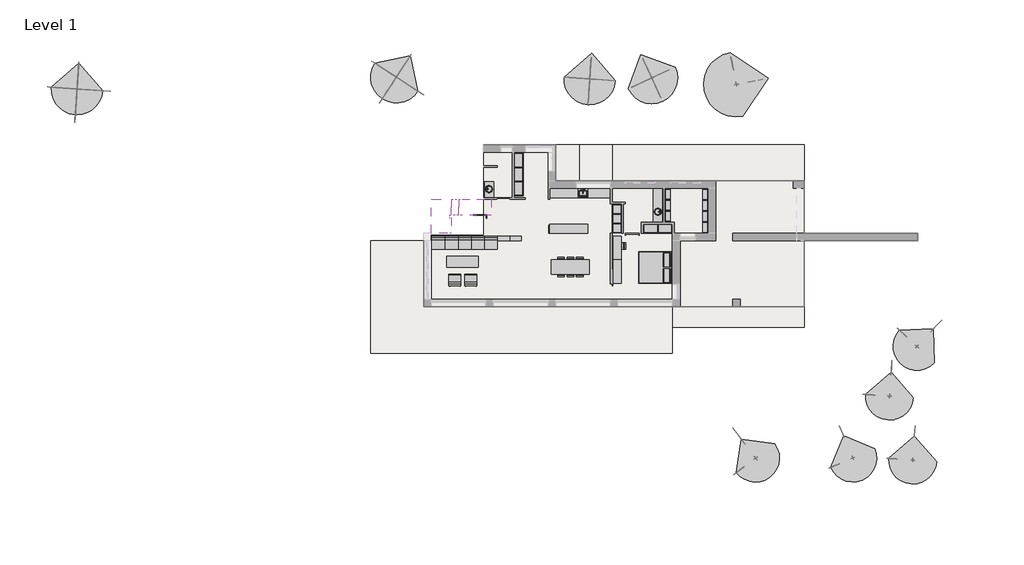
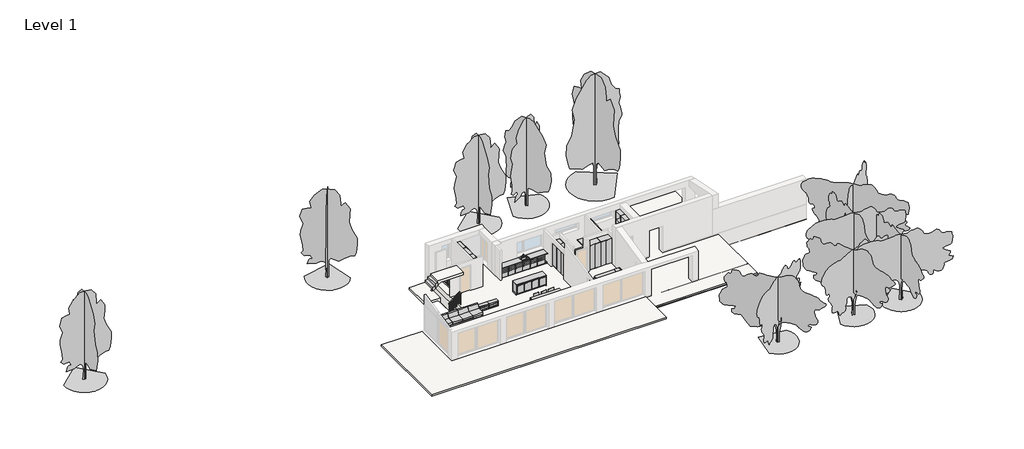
# One storey, part 2 of 2: 52 furniture elements, 10 geographic elements, 6 slabs, 3 flow terminals, 1 proxy, 1 railing, 1 stair flight.
"""IFC4 building model written with IfcOpenShell, lengths in millimetres."""

from ifc_helpers import new_model, si_unit, frame, origin, place, context, project, spatial, polyline, outline, extrude, faceted_brep, triangles, transform, mapped, element, save
from components import sink_kitchen_single_600_x_535mm_f0c6929d, sink_vanity_round_482_x_482mm_621b7b9b, sink_vanity_round_482_x_482mm_d6680c68, furniture_56f83323, furniture_c7f23c1d, furniture_641ccf10, furniture_1500_x_500mm_231fc5f9, furniture_2000_x_700mm_sofa_1e09125b, furniture_2400_x_900mm_03e2ad21, furniture_700_x_300_x_2200mm_207dd1db, furniture_700_x_300_x_2200mm_c5de9306, furniture_750_x_300_x_450mm_957a72fb, base_cabinet_4_drawers_600mm_0668e636, base_cabinet_4_drawers_600mm_bfcd0b6d, bed_box_2000_x_2100mm_5f007bae, couch_straight_module_couch_straight_module_fcc397ea, counter_top_counter_top_cbd42a63, counter_top_w_sink_counter_top_w_sink_5c8073ae, plinth_164mm_2a3f33c6, plinth_164mm_81055ff0, tall_cabinet_double_door_900mm_d8c8d432, tall_cabinet_single_door_600mm_1bc0e967, tall_cabinet_single_door_600mm_d6f7602f, vanity_counter_top_w_round_sink_hole_600mm_depth_7d531bef, vanity_counter_top_w_round_sink_hole_600mm_depth_ceb9e691, rpc_tree_deciduous_comman_apple_6_0_meters_a7a636f8, rpc_tree_deciduous_red_ash_7_6_meters_16c8020d, rpc_tree_deciduous_red_ash_9_6_meters_2_bacbc33b, railing_900mm_round_profiles_c0c307c5

model = new_model("IFC4")

# Units and contexts
model_context = context("Model", 3, world=origin())
ifc_project = project(units=[si_unit("LENGTHUNIT", "METRE", prefix="MILLI")], contexts=[model_context])

# Site, building, storey
site = spatial("IfcSite", under=ifc_project)
building = spatial("IfcBuilding", under=site)
storey = spatial("IfcBuildingStorey", under=building, Name="Level 1", Elevation=0.0)

# Proxy
placement = place(None, origin())
element("IfcBuildingElementProxy", 1, Name="Building Element Proxy", at=placement, inside=storey, context=model_context, shape_type="Tessellation", body=[
    triangles([(7800.0000595, 9960.0001923, -1300.1595932), (7800.0000595, 9960.0001923, -581.8375231), (8428.9581802, 9960.0001923, -1300.1595932), (8428.9581802, 9960.0001923, -500.0000038), (12360.0002106, 9960.0001923, -1300.1595932), (12360.0002106, 9960.0001923, -210.0000089), (12360.0002106, 7679.999826, -1300.1595932), (12360.0002106, 7679.999826, -229.7587047), (12986.7293976, 7679.999826, -1300.1595932), (12986.7293976, 7679.999826, -199.1943094), (15938.3887665, 7679.999826, -1300.1595932), (15938.3887665, 7679.999826, -109.0047382), (18788.9891876, 7679.999826, -1300.1595932), (18788.9891876, 7679.999826, -110.9825699), (20187.7979919, 7679.999826, -1300.1595932), (20187.7979919, 7679.999826, -100.0000008), (22628.3373962, 7679.999826, -1300.1595932), (22628.3373962, 7679.999826, -100.0000008), (22988.0666016, 7679.999826, -1300.1595932), (22988.0666016, 7679.999826, -100.0000008), (24740.727063, 7679.999826, -1300.1595932), (24740.727063, 7679.999826, -100.0000008), (28197.1858521, 7679.999826, -1300.1595932), (28197.1858521, 7679.999826, -100.0000008), (28199.9996338, 7679.999826, -1300.1595932), (28199.9996338, 7679.999826, -100.0000008), (28199.9996338, 7678.500499, -1300.1595932), (28199.9996338, 7678.500499, -100.0000008), (28199.9996338, 4319.9999748, -1300.1595932), (28199.9996338, 4319.9999748, -100.0000008), (29690.7714294, 4319.9999748, -1300.1595932), (29690.7714294, 4319.9999748, -100.0000008), (30279.9424438, 4319.9999748, -1300.1595932), (30279.9424438, 4319.9999748, -100.0000008), (30908.9993958, 4319.9999748, -1300.1595932), (30908.9993958, 4319.9999748, -31.0460633), (31416.6009705, 4319.9999748, -1300.1595932), (31416.6009705, 4319.9999748, 0.0), (35399.9996887, 4319.9999748, -1300.1595932), (35399.9996887, 4319.9999748, 122.2298394), (35399.9996887, 3839.999913, -1300.1595932), (35399.9996887, 3839.999913, 121.0508688), (31455.0242065, 3839.999913, -1300.1595932), (31455.0242065, 3839.999913, 0.0), (31153.3635498, 3839.999913, -1300.1595932), (31153.3635498, 3839.999913, -18.4501842), (30409.3973328, 3839.999913, -1300.1595932), (30409.3973328, 3839.999913, -100.0000008), (29712.602655, 3839.999913, -1300.1595932), (29712.602655, 3839.999913, -100.0000008), (28199.9996338, 3839.999913, -1300.1595932), (28199.9996338, 3839.999913, -100.0000008), (28199.9996338, 2757.5497055, -1300.1595932), (28199.9996338, 2757.5497055, -100.0000008), (28199.9996338, -360.00001, -1300.1595932), (28199.9996338, -360.00001, -100.0000008), (23853.7207397, -360.00001, -1300.1595932), (23853.7207397, -360.00001, -100.0000008), (22511.993335, -360.00001, -1300.1595932), (22511.993335, -360.00001, -100.0000008), (21752.8164185, -360.00001, -1300.1595932), (21752.8164185, -360.00001, -100.0000008), (16504.800705, -360.00001, -1300.1595932), (16504.800705, -360.00001, -141.2041627), (15862.1806274, -360.00001, -1300.1595932), (15862.1806274, -360.00001, -140.758296), (15196.7770569, -360.00001, -1300.1595932), (15196.7770569, -360.00001, -161.0900401), (13880.4667053, -360.00001, -1300.1595932), (13880.4667053, -360.00001, -225.2839233), (13373.8755341, -360.00001, -1300.1595932), (13373.8755341, -360.00001, -233.3955103), (12470.4004486, -360.00001, -1300.1595932), (12470.4004486, -360.00001, -249.2727207), (11393.3638641, -360.00001, -1300.1595932), (11393.3638641, -360.00001, -270.7964614), (9179.1106476, -360.00001, -1300.1595932), (9179.1106476, -360.00001, -319.6154838), (3959.9998558, -360.00001, -1300.1595932), (3959.9998558, -360.00001, -445.0650939), (3959.9998558, 1473.4966873, -1300.1595932), (3959.9998558, 1473.4966873, -452.5169646), (3959.9998558, 3551.736985, -1300.1595932), (3959.9998558, 3551.736985, -472.7297934), (3959.9998558, 3839.999913, -1300.1595932), (3959.9998558, 3839.999913, -476.6637102)], [[1, 4, 2], [1, 3, 4], [3, 6, 4], [3, 5, 6], [5, 8, 6], [5, 7, 8], [7, 10, 8], [7, 9, 10], [9, 12, 10], [9, 11, 12], [11, 14, 12], [11, 13, 14], [13, 16, 14], [13, 15, 16], [15, 18, 16], [15, 17, 18], [17, 20, 18], [17, 19, 20], [19, 22, 20], [19, 21, 22], [21, 24, 22], [21, 23, 24], [23, 26, 24], [23, 25, 26], [25, 28, 26], [25, 27, 28], [27, 30, 28], [27, 29, 30], [29, 32, 30], [29, 31, 32], [31, 34, 32], [31, 33, 34], [33, 36, 34], [33, 35, 36], [35, 38, 36], [35, 37, 38], [37, 40, 38], [37, 39, 40], [39, 42, 40], [39, 41, 42], [41, 44, 42], [41, 43, 44], [43, 46, 44], [43, 45, 46], [45, 48, 46], [45, 47, 48], [47, 50, 48], [47, 49, 50], [49, 52, 50], [49, 51, 52], [51, 54, 52], [51, 53, 54], [53, 56, 54], [53, 55, 56], [55, 58, 56], [55, 57, 58], [57, 60, 58], [57, 59, 60], [59, 62, 60], [59, 61, 62], [61, 64, 62], [61, 63, 64], [63, 66, 64], [63, 65, 66], [65, 68, 66], [65, 67, 68], [67, 70, 68], [67, 69, 70], [69, 72, 70], [69, 71, 72], [71, 74, 72], [71, 73, 74], [73, 76, 74], [73, 75, 76], [75, 78, 76], [75, 77, 78], [77, 80, 78], [77, 79, 80], [79, 82, 80], [79, 81, 82], [81, 84, 82], [81, 83, 84], [83, 86, 84], [83, 85, 86]], closed=False),
    triangles([(3959.9998558, 3839.999913, -1300.1595932), (3959.9998558, 3839.999913, -476.6637102), (3959.9998558, 3551.736985, -1300.1595932), (3959.9998558, 3551.736985, -472.7297934), (3959.9998558, 1473.4966873, -1300.1595932), (3959.9998558, 1473.4966873, -452.5169646), (3959.9998558, -360.00001, -1300.1595932), (3959.9998558, -360.00001, -445.0650939), (9179.1106476, -360.00001, -1300.1595932), (9179.1106476, -360.00001, -319.6154838), (11393.3638641, -360.00001, -1300.1595932), (11393.3638641, -360.00001, -270.7964614), (12470.4004486, -360.00001, -1300.1595932), (12470.4004486, -360.00001, -249.2727207), (13373.8755341, -360.00001, -1300.1595932), (13373.8755341, -360.00001, -233.3955103), (13880.4667053, -360.00001, -1300.1595932), (13880.4667053, -360.00001, -225.2839233), (15196.7770569, -360.00001, -1300.1595932), (15196.7770569, -360.00001, -161.0900401), (15862.1806274, -360.00001, -1300.1595932), (15862.1806274, -360.00001, -140.758296), (16504.800705, -360.00001, -1300.1595932), (16504.800705, -360.00001, -141.2041627), (21752.8164185, -360.00001, -1300.1595932), (21752.8164185, -360.00001, -100.0000008), (22511.993335, -360.00001, -1300.1595932), (22511.993335, -360.00001, -100.0000008), (23853.7207397, -360.00001, -1300.1595932), (23853.7207397, -360.00001, -100.0000008), (28199.9996338, -360.00001, -1300.1595932), (28199.9996338, -360.00001, -100.0000008), (28199.9996338, 2757.5497055, -1300.1595932), (28199.9996338, 2757.5497055, -100.0000008), (28199.9996338, 3839.999913, -1300.1595932), (28199.9996338, 3839.999913, -100.0000008), (29712.602655, 3839.999913, -1300.1595932), (29712.602655, 3839.999913, -100.0000008), (30409.3973328, 3839.999913, -1300.1595932), (30409.3973328, 3839.999913, -100.0000008), (31153.3635498, 3839.999913, -1300.1595932), (31153.3635498, 3839.999913, -18.4501842), (31455.0242065, 3839.999913, -1300.1595932), (31455.0242065, 3839.999913, 0.0), (35399.9996887, 3839.999913, -1300.1595932), (35399.9996887, 3839.999913, 121.0508688), (35399.9996887, 4319.9999748, -1300.1595932), (35399.9996887, 4319.9999748, 122.2298394), (31416.6009705, 4319.9999748, -1300.1595932), (31416.6009705, 4319.9999748, 0.0), (30908.9993958, 4319.9999748, -1300.1595932), (30908.9993958, 4319.9999748, -31.0460633), (30279.9424438, 4319.9999748, -1300.1595932), (30279.9424438, 4319.9999748, -100.0000008), (29690.7714294, 4319.9999748, -1300.1595932), (29690.7714294, 4319.9999748, -100.0000008), (28199.9996338, 4319.9999748, -1300.1595932), (28199.9996338, 4319.9999748, -100.0000008), (28199.9996338, 7678.500499, -1300.1595932), (28199.9996338, 7678.500499, -100.0000008), (28199.9996338, 7679.999826, -1300.1595932), (28199.9996338, 7679.999826, -100.0000008), (28197.1858521, 7679.999826, -1300.1595932), (28197.1858521, 7679.999826, -100.0000008), (24740.727063, 7679.999826, -1300.1595932), (24740.727063, 7679.999826, -100.0000008), (22988.0666016, 7679.999826, -1300.1595932), (22988.0666016, 7679.999826, -100.0000008), (22628.3373962, 7679.999826, -1300.1595932), (22628.3373962, 7679.999826, -100.0000008), (20187.7979919, 7679.999826, -1300.1595932), (20187.7979919, 7679.999826, -100.0000008), (18788.9891876, 7679.999826, -1300.1595932), (18788.9891876, 7679.999826, -110.9825699), (15938.3887665, 7679.999826, -1300.1595932), (15938.3887665, 7679.999826, -109.0047382), (12986.7293976, 7679.999826, -1300.1595932), (12986.7293976, 7679.999826, -199.1943094), (12360.0002106, 7679.999826, -1300.1595932), (12360.0002106, 7679.999826, -229.7587047), (12360.0002106, 9960.0001923, -1300.1595932), (12360.0002106, 9960.0001923, -210.0000089)], [[1, 4, 2], [1, 3, 4], [3, 6, 4], [3, 5, 6], [5, 8, 6], [5, 7, 8], [7, 10, 8], [7, 9, 10], [9, 12, 10], [9, 11, 12], [11, 14, 12], [11, 13, 14], [13, 16, 14], [13, 15, 16], [15, 18, 16], [15, 17, 18], [17, 20, 18], [17, 19, 20], [19, 22, 20], [19, 21, 22], [21, 24, 22], [21, 23, 24], [23, 26, 24], [23, 25, 26], [25, 28, 26], [25, 27, 28], [27, 30, 28], [27, 29, 30], [29, 32, 30], [29, 31, 32], [31, 34, 32], [31, 33, 34], [33, 36, 34], [33, 35, 36], [35, 38, 36], [35, 37, 38], [37, 40, 38], [37, 39, 40], [39, 42, 40], [39, 41, 42], [41, 44, 42], [41, 43, 44], [43, 46, 44], [43, 45, 46], [45, 48, 46], [45, 47, 48], [47, 50, 48], [47, 49, 50], [49, 52, 50], [49, 51, 52], [51, 54, 52], [51, 53, 54], [53, 56, 54], [53, 55, 56], [55, 58, 56], [55, 57, 58], [57, 60, 58], [57, 59, 60], [59, 62, 60], [59, 61, 62], [61, 64, 62], [61, 63, 64], [63, 66, 64], [63, 65, 66], [65, 68, 66], [65, 67, 68], [67, 70, 68], [67, 69, 70], [69, 72, 70], [69, 71, 72], [71, 74, 72], [71, 73, 74], [73, 76, 74], [73, 75, 76], [75, 78, 76], [75, 77, 78], [77, 80, 78], [77, 79, 80], [79, 82, 80], [79, 81, 82]], closed=False),
    triangles([(12360.0002106, 9960.0001923, -1300.1595932), (12360.0002106, 9960.0001923, -210.0000089), (8428.9581802, 9960.0001923, -1300.1595932), (8428.9581802, 9960.0001923, -500.0000038), (7800.0000595, 9960.0001923, -1300.1595932), (7800.0000595, 9960.0001923, -581.8375231)], [[1, 4, 2], [1, 3, 4], [3, 6, 4], [3, 5, 6]], closed=False),
    triangles([(12360.0002106, 9960.0001923, -1300.1595932), (7800.0000595, 9960.0001923, -1300.1595932), (7800.0000595, 4200.000032, -1300.1595932), (4439.9999176, 4200.000032, -1300.1595932), (4439.9999176, 3839.999913, -1300.1595932), (3959.9998558, 3839.999913, -1300.1595932), (3959.9998558, -360.00001, -1300.1595932), (28199.9996338, -360.00001, -1300.1595932), (28199.9996338, 3839.999913, -1300.1595932), (35399.9996887, 3839.999913, -1300.1595932), (35399.9996887, 4319.9999748, -1300.1595932), (28199.9996338, 4319.9999748, -1300.1595932), (28199.9996338, 7679.999826, -1300.1595932), (12360.0002106, 7679.999826, -1300.1595932)], [[7, 5, 6], [5, 7, 3], [2, 14, 1], [14, 2, 3], [4, 5, 3], [7, 8, 3], [8, 9, 14], [9, 10, 11], [14, 12, 13], [12, 14, 9], [12, 9, 11], [8, 14, 3]], closed=False),
])

# Flow terminals
sink_kitchen_single_600_x_535mm_shape = sink_kitchen_single_600_x_535mm_f0c6929d(model_context)
element("IfcFlowTerminal", 2, ObjectType="Sink Kitchen-Single : 600 x 535mm", at=placement, inside=storey, context=model_context, shape_type="MappedRepresentation", body=[
    mapped(sink_kitchen_single_600_x_535mm_shape, transform((14084.3107594, 6884.4545989, 0.0), x_axis=(1.0, 0.0, 0.0), y_axis=(0.0, 1.0, 0.0), z_axis=(0.0, 0.0, 1.0))),
])
sink_vanity_round_482_x_482mm_shape = sink_vanity_round_482_x_482mm_621b7b9b(model_context)
element("IfcFlowTerminal", 3, ObjectType="Sink Vanity - Round : 482 x 482mm", at=placement, inside=storey, context=model_context, shape_type="MappedRepresentation", body=[
    mapped(sink_vanity_round_482_x_482mm_shape, transform((8198.5909789, 7043.3482594, 0.0), x_axis=(0.0, 1.0, 0.0), y_axis=(-1.0, 0.0, 0.0), z_axis=(0.0, 0.0, 1.0))),
])
sink_vanity_round_482_x_482mm_2_shape = sink_vanity_round_482_x_482mm_d6680c68(model_context)
element("IfcFlowTerminal", 4, ObjectType="Sink Vanity - Round : 482 x 482mm", at=placement, inside=storey, context=model_context, shape_type="MappedRepresentation", body=[
    mapped(sink_vanity_round_482_x_482mm_2_shape, transform((18782.3590211, 5603.3482594, 0.0), x_axis=(0.0, 1.0, 0.0), y_axis=(-1.0, 0.0, 0.0), z_axis=(0.0, 0.0, 1.0))),
])

# Furniture
furniture_shape = furniture_56f83323(model_context)
element("IfcFurniture", 5, ObjectType="Chair - Allround : Dining Chair Trendy", at=placement, inside=storey, context=model_context, shape_type="MappedRepresentation", body=[
    mapped(furniture_shape, transform((13300.0, 2500.0, 0.0), x_axis=(1.0, 0.0, 0.0), y_axis=(0.0, 1.0, 0.0), z_axis=(0.0, 0.0, 1.0))),
])
element("IfcFurniture", 6, ObjectType="Chair - Allround : Dining Chair Trendy", at=placement, inside=storey, context=model_context, shape_type="MappedRepresentation", body=[
    mapped(furniture_shape, transform((12700.0, 2500.0, 0.0), x_axis=(1.0, 0.0, 0.0), y_axis=(0.0, 1.0, 0.0), z_axis=(0.0, 0.0, 1.0))),
])
element("IfcFurniture", 7, ObjectType="Chair - Allround : Dining Chair Trendy", at=placement, inside=storey, context=model_context, shape_type="MappedRepresentation", body=[
    mapped(furniture_shape, transform((13900.0, 1860.0, 0.0), x_axis=(-1.0, 0.0, 0.0), y_axis=(0.0, -1.0, 0.0), z_axis=(0.0, 0.0, 1.0))),
])
element("IfcFurniture", 8, ObjectType="Chair - Allround : Dining Chair Trendy", at=placement, inside=storey, context=model_context, shape_type="MappedRepresentation", body=[
    mapped(furniture_shape, transform((16520.0, 3510.0, 0.0), x_axis=(0.0, -1.0, 0.0), y_axis=(1.0, 0.0, 0.0), z_axis=(0.0, 0.0, 1.0))),
])
furniture_2_shape = furniture_c7f23c1d(model_context)
element("IfcFurniture", 9, ObjectType="Armchair - Barcelona : Armchair Barcelona", at=placement, inside=storey, context=model_context, shape_type="MappedRepresentation", body=[
    mapped(furniture_2_shape, transform((6959.0, 930.0, 0.0), x_axis=(-1.0000000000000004, 0.0, 0.0), y_axis=(0.0, -1.0000000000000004, 0.0), z_axis=(0.0, 0.0, 1.0))),
])
element("IfcFurniture", 10, ObjectType="Armchair - Barcelona : Armchair Barcelona", at=placement, inside=storey, context=model_context, shape_type="MappedRepresentation", body=[
    mapped(furniture_2_shape, transform((5947.0, 930.0, 0.0), x_axis=(-1.0, 0.0, 0.0), y_axis=(0.0, -1.0, 0.0), z_axis=(0.0, 0.0, 1.0))),
])
furniture_3_shape = furniture_641ccf10(model_context)
element("IfcFurniture", 11, ObjectType="Chair - Allround : Dining Chair Trendy", at=placement, inside=storey, context=model_context, shape_type="MappedRepresentation", body=[
    mapped(furniture_3_shape, transform((13900.0, 2500.0, 0.0), x_axis=(-1.0, 0.0, 0.0), y_axis=(0.0, -1.0, 0.0), z_axis=(0.0, 0.0, 1.0))),
])
element("IfcFurniture", 12, ObjectType="Chair - Allround : Dining Chair Trendy", at=placement, inside=storey, context=model_context, shape_type="MappedRepresentation", body=[
    mapped(furniture_3_shape, transform((13300.0, 1860.0, 0.0), x_axis=(1.0, 0.0, 0.0), y_axis=(0.0, 1.0, 0.0), z_axis=(0.0, 0.0, 1.0))),
])
element("IfcFurniture", 13, ObjectType="Chair - Allround : Dining Chair Trendy", at=placement, inside=storey, context=model_context, shape_type="MappedRepresentation", body=[
    mapped(furniture_3_shape, transform((12700.0, 1860.0, 0.0), x_axis=(1.0, 0.0, 0.0), y_axis=(0.0, 1.0, 0.0), z_axis=(0.0, 0.0, 1.0))),
])
furniture_1500_x_500mm_shape = furniture_1500_x_500mm_231fc5f9(model_context)
element("IfcFurniture", 14, ObjectType="Table - Allround : 1500 x 500mm", at=placement, inside=storey, context=model_context, shape_type="MappedRepresentation", body=[
    mapped(furniture_1500_x_500mm_shape, transform((16275.0, 3400.0, 0.0), x_axis=(0.0, 1.0, 0.0), y_axis=(-1.0, 0.0, 0.0), z_axis=(0.0, 0.0, 1.0))),
])
element("IfcFurniture", 15, ObjectType="Table - Allround : 1500 x 500mm", at=placement, inside=storey, context=model_context, shape_type="MappedRepresentation", body=[
    mapped(furniture_1500_x_500mm_shape, transform((16275.0, 1900.0, 0.0), x_axis=(0.0, 1.0, 0.0), y_axis=(-1.0, 0.0, 0.0), z_axis=(0.0, 0.0, 1.0))),
])
furniture_2000_x_700mm_sofa_shape = furniture_2000_x_700mm_sofa_1e09125b(model_context)
element("IfcFurniture", 16, ObjectType="Table - Allround : 2000 x 700mm Sofa", at=placement, inside=storey, context=model_context, shape_type="MappedRepresentation", body=[
    mapped(furniture_2000_x_700mm_sofa_shape, transform((6440.0, 2520.0, 0.0), x_axis=(1.0, 0.0, 0.0), y_axis=(0.0, 1.0, 0.0), z_axis=(0.0, 0.0, 1.0))),
])
furniture_2400_x_900mm_shape = furniture_2400_x_900mm_03e2ad21(model_context)
element("IfcFurniture", 17, ObjectType="Table - Allround : 2400 x 900mm", at=placement, inside=storey, context=model_context, shape_type="MappedRepresentation", body=[
    mapped(furniture_2400_x_900mm_shape, transform((13300.0, 2180.0, 0.0), x_axis=(1.0, 0.0, 0.0), y_axis=(0.0, 1.0, 0.0), z_axis=(0.0, 0.0, 1.0))),
])
furniture_700_x_300_x_2200mm_shape = furniture_700_x_300_x_2200mm_207dd1db(model_context)
element("IfcFurniture", 18, ObjectType="Shelving (Floor) - Allround : 700 x 300 x 2200mm", at=placement, inside=storey, context=model_context, shape_type="MappedRepresentation", body=[
    mapped(furniture_700_x_300_x_2200mm_shape, transform((19824.8, 5420.0, 0.0), x_axis=(0.0, -1.0000000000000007, 0.0), y_axis=(1.0000000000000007, 0.0, 0.0), z_axis=(0.0, 0.0, 1.0))),
])
element("IfcFurniture", 19, ObjectType="Shelving (Floor) - Allround : 700 x 300 x 2200mm", at=placement, inside=storey, context=model_context, shape_type="MappedRepresentation", body=[
    mapped(furniture_700_x_300_x_2200mm_shape, transform((19824.8, 6120.0, 0.0), x_axis=(0.0, -1.0000000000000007, 0.0), y_axis=(1.0000000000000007, 0.0, 0.0), z_axis=(0.0, 0.0, 1.0))),
])
element("IfcFurniture", 20, ObjectType="Shelving (Floor) - Allround : 700 x 300 x 2200mm", at=placement, inside=storey, context=model_context, shape_type="MappedRepresentation", body=[
    mapped(furniture_700_x_300_x_2200mm_shape, transform((19824.8, 6820.0, 0.0), x_axis=(0.0, -1.0000000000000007, 0.0), y_axis=(1.0000000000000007, 0.0, 0.0), z_axis=(0.0, 0.0, 1.0))),
])
furniture_700_x_300_x_2200mm_2_shape = furniture_700_x_300_x_2200mm_c5de9306(model_context)
element("IfcFurniture", 21, ObjectType="Shelving (Floor) - Allround : 700 x 300 x 2200mm", at=placement, inside=storey, context=model_context, shape_type="MappedRepresentation", body=[
    mapped(furniture_700_x_300_x_2200mm_2_shape, transform((21575.2, 5400.0, 0.0), x_axis=(0.0, -1.0000000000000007, 0.0), y_axis=(1.0000000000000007, 0.0, 0.0), z_axis=(0.0, 0.0, 1.0))),
])
element("IfcFurniture", 22, ObjectType="Shelving (Floor) - Allround : 700 x 300 x 2200mm", at=placement, inside=storey, context=model_context, shape_type="MappedRepresentation", body=[
    mapped(furniture_700_x_300_x_2200mm_2_shape, transform((21575.2, 6100.0, 0.0), x_axis=(0.0, -1.0000000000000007, 0.0), y_axis=(1.0000000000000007, 0.0, 0.0), z_axis=(0.0, 0.0, 1.0))),
])
element("IfcFurniture", 23, ObjectType="Shelving (Floor) - Allround : 700 x 300 x 2200mm", at=placement, inside=storey, context=model_context, shape_type="MappedRepresentation", body=[
    mapped(furniture_700_x_300_x_2200mm_2_shape, transform((21575.2, 6800.0, 0.0), x_axis=(0.0, -1.0000000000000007, 0.0), y_axis=(1.0000000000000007, 0.0, 0.0), z_axis=(0.0, 0.0, 1.0))),
])
element("IfcFurniture", 24, ObjectType="Shelving (Floor) - Allround : 700 x 300 x 2200mm", at=placement, inside=storey, context=model_context, shape_type="MappedRepresentation", body=[
    mapped(furniture_700_x_300_x_2200mm_2_shape, transform((21575.2, 4700.0, 0.0), x_axis=(0.0, -1.0000000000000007, 0.0), y_axis=(1.0000000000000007, 0.0, 0.0), z_axis=(0.0, 0.0, 1.0))),
])
furniture_750_x_300_x_450mm_shape = furniture_750_x_300_x_450mm_957a72fb(model_context)
element("IfcFurniture", 25, ObjectType="Shelving (Floor) - Allround : 750 x 300 x 450mm", at=placement, inside=storey, context=model_context, shape_type="MappedRepresentation", body=[
    mapped(furniture_750_x_300_x_450mm_shape, transform((9065.0, 4304.8, 0.0), x_axis=(1.0000000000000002, 0.0, 0.0), y_axis=(0.0, 1.0000000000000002, 0.0), z_axis=(0.0, 0.0, 1.0))),
])
element("IfcFurniture", 26, ObjectType="Shelving (Floor) - Allround : 750 x 300 x 450mm", at=placement, inside=storey, context=model_context, shape_type="MappedRepresentation", body=[
    mapped(furniture_750_x_300_x_450mm_shape, transform((9815.0, 4304.8, 0.0), x_axis=(1.0000000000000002, 0.0, 0.0), y_axis=(0.0, 1.0000000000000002, 0.0), z_axis=(0.0, 0.0, 1.0))),
])
base_cabinet_4_drawers_600mm_shape = base_cabinet_4_drawers_600mm_0668e636(model_context)
element("IfcFurniture", 27, ObjectType="Base Cabinet - 4 Drawers : 600mm", at=placement, inside=storey, context=model_context, shape_type="MappedRepresentation", body=[
    mapped(base_cabinet_4_drawers_600mm_shape, transform((13455.2996736, 7200.9817781, 0.0), x_axis=(1.0, 0.0, 0.0), y_axis=(0.0, 1.0, 0.0), z_axis=(0.0, 0.0, 1.0))),
])
element("IfcFurniture", 28, ObjectType="Base Cabinet - 4 Drawers : 600mm", at=placement, inside=storey, context=model_context, shape_type="MappedRepresentation", body=[
    mapped(base_cabinet_4_drawers_600mm_shape, transform((14655.2996736, 7200.0, 0.0), x_axis=(1.0, 0.0, 0.0), y_axis=(0.0, 1.0, 0.0), z_axis=(0.0, 0.0, 1.0))),
])
element("IfcFurniture", 29, ObjectType="Base Cabinet - 4 Drawers : 600mm", at=placement, inside=storey, context=model_context, shape_type="MappedRepresentation", body=[
    mapped(base_cabinet_4_drawers_600mm_shape, transform((15255.2996736, 7200.0, 0.0), x_axis=(1.0, 0.0, 0.0), y_axis=(0.0, 1.0, 0.0), z_axis=(0.0, 0.0, 1.0))),
])
element("IfcFurniture", 30, ObjectType="Base Cabinet - 4 Drawers : 600mm", at=placement, inside=storey, context=model_context, shape_type="MappedRepresentation", body=[
    mapped(base_cabinet_4_drawers_600mm_shape, transform((12344.7003264, 4320.0, 0.0), x_axis=(-1.0000000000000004, 0.0, 0.0), y_axis=(0.0, -1.0000000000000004, 0.0), z_axis=(0.0, 0.0, 1.0))),
])
element("IfcFurniture", 31, ObjectType="Base Cabinet - 4 Drawers : 600mm", at=placement, inside=storey, context=model_context, shape_type="MappedRepresentation", body=[
    mapped(base_cabinet_4_drawers_600mm_shape, transform((12944.7003264, 4320.0, 0.0), x_axis=(-1.0, 0.0, 0.0), y_axis=(0.0, -1.0, 0.0), z_axis=(0.0, 0.0, 1.0))),
])
element("IfcFurniture", 32, ObjectType="Base Cabinet - 4 Drawers : 600mm", at=placement, inside=storey, context=model_context, shape_type="MappedRepresentation", body=[
    mapped(base_cabinet_4_drawers_600mm_shape, transform((13544.7003264, 4320.0, 0.0), x_axis=(-1.0, 0.0, 0.0), y_axis=(0.0, -1.0, 0.0), z_axis=(0.0, 0.0, 1.0))),
])
element("IfcFurniture", 33, ObjectType="Base Cabinet - 4 Drawers : 600mm", at=placement, inside=storey, context=model_context, shape_type="MappedRepresentation", body=[
    mapped(base_cabinet_4_drawers_600mm_shape, transform((14144.7003264, 4320.0, 0.0), x_axis=(-1.0, 0.0, 0.0), y_axis=(0.0, -1.0, 0.0), z_axis=(0.0, 0.0, 1.0))),
])
element("IfcFurniture", 34, ObjectType="Base Cabinet - 4 Drawers : 600mm", at=placement, inside=storey, context=model_context, shape_type="MappedRepresentation", body=[
    mapped(base_cabinet_4_drawers_600mm_shape, transform((12855.2996736, 7200.9817781, 0.0), x_axis=(1.0, 0.0, 0.0), y_axis=(0.0, 1.0, 0.0), z_axis=(0.0, 0.0, 1.0))),
])
element("IfcFurniture", 35, ObjectType="Base Cabinet - 4 Drawers : 600mm", at=placement, inside=storey, context=model_context, shape_type="MappedRepresentation", body=[
    mapped(base_cabinet_4_drawers_600mm_shape, transform((12255.2996736, 7200.9817781, 0.0), x_axis=(1.0, 0.0, 0.0), y_axis=(0.0, 1.0, 0.0), z_axis=(0.0, 0.0, 1.0))),
])
base_cabinet_4_drawers_600mm_2_shape = base_cabinet_4_drawers_600mm_bfcd0b6d(model_context)
element("IfcFurniture", 36, ObjectType="Base Cabinet - 4 Drawers : 600mm", at=placement, inside=storey, context=model_context, shape_type="MappedRepresentation", body=[
    mapped(base_cabinet_4_drawers_600mm_2_shape, transform((14055.2996736, 7200.0, 0.0), x_axis=(1.0, 0.0, 0.0), y_axis=(0.0, 1.0, 0.0), z_axis=(0.0, 0.0, 1.0))),
])
bed_box_2000_x_2100mm_shape = bed_box_2000_x_2100mm_5f007bae(model_context)
element("IfcFurniture", 37, ObjectType="Bed - Box : 2000 x 2100mm", at=placement, inside=storey, context=model_context, shape_type="MappedRepresentation", body=[
    mapped(bed_box_2000_x_2100mm_shape, transform((18934.4295082, 2489.152459, 0.0), x_axis=(0.0, -1.0000000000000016, 0.0), y_axis=(1.0000000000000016, 0.0, 0.0), z_axis=(0.0, 0.0, 1.0))),
])
couch_straight_module_couch_straight_module_shape = couch_straight_module_couch_straight_module_fcc397ea(model_context)
element("IfcFurniture", 38, ObjectType="Couch - Straight Module : Couch straight module", at=placement, inside=storey, context=model_context, shape_type="MappedRepresentation", body=[
    mapped(couch_straight_module_couch_straight_module_shape, transform((4490.0, 3320.0, 0.0), x_axis=(1.0, 0.0, 0.0), y_axis=(0.0, 1.0, 0.0), z_axis=(0.0, 0.0, 1.0))),
])
element("IfcFurniture", 39, ObjectType="Couch - Straight Module : Couch straight module", at=placement, inside=storey, context=model_context, shape_type="MappedRepresentation", body=[
    mapped(couch_straight_module_couch_straight_module_shape, transform((5320.0, 3320.0, 0.0), x_axis=(1.0, 0.0, 0.0), y_axis=(0.0, 1.0, 0.0), z_axis=(0.0, 0.0, 1.0))),
])
element("IfcFurniture", 40, ObjectType="Couch - Straight Module : Couch straight module", at=placement, inside=storey, context=model_context, shape_type="MappedRepresentation", body=[
    mapped(couch_straight_module_couch_straight_module_shape, transform((6150.0, 3320.0, 0.0), x_axis=(1.0, 0.0, 0.0), y_axis=(0.0, 1.0, 0.0), z_axis=(0.0, 0.0, 1.0))),
])
element("IfcFurniture", 41, ObjectType="Couch - Straight Module : Couch straight module", at=placement, inside=storey, context=model_context, shape_type="MappedRepresentation", body=[
    mapped(couch_straight_module_couch_straight_module_shape, transform((6980.0, 3320.0, 0.0), x_axis=(1.0, 0.0, 0.0), y_axis=(0.0, 1.0, 0.0), z_axis=(0.0, 0.0, 1.0))),
])
element("IfcFurniture", 42, ObjectType="Couch - Straight Module : Couch straight module", at=placement, inside=storey, context=model_context, shape_type="MappedRepresentation", body=[
    mapped(couch_straight_module_couch_straight_module_shape, transform((7810.0, 3320.0, 0.0), x_axis=(1.0, 0.0, 0.0), y_axis=(0.0, 1.0, 0.0), z_axis=(0.0, 0.0, 1.0))),
])
counter_top_counter_top_shape = counter_top_counter_top_cbd42a63(model_context)
element("IfcFurniture", 43, ObjectType="Counter Top : Counter Top", at=placement, inside=storey, context=model_context, shape_type="MappedRepresentation", body=[
    mapped(counter_top_counter_top_shape, transform((13844.7003264, 4320.0, 0.0), x_axis=(-1.0000000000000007, 0.0, 0.0), y_axis=(0.0, -1.0000000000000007, 0.0), z_axis=(0.0, 0.0, 1.0))),
])
counter_top_w_sink_counter_top_w_sink_shape = counter_top_w_sink_counter_top_w_sink_5c8073ae(model_context)
element("IfcFurniture", 44, ObjectType="Counter Top w Sink : Counter Top w Sink", at=placement, inside=storey, context=model_context, shape_type="MappedRepresentation", body=[
    mapped(counter_top_w_sink_counter_top_w_sink_shape, transform((12555.2996736, 7200.0, 0.0), x_axis=(1.0, 0.0, 0.0), y_axis=(0.0, 1.0, 0.0), z_axis=(0.0, 0.0, 1.0))),
])
plinth_164mm_shape = plinth_164mm_2a3f33c6(model_context)
element("IfcFurniture", 45, ObjectType="Plinth : 164mm", at=placement, inside=storey, context=model_context, shape_type="MappedRepresentation", body=[
    mapped(plinth_164mm_shape, transform((13214.7003264, 4320.0, 0.0), x_axis=(-1.0, 0.0, 0.0), y_axis=(0.0, -1.0, 0.0), z_axis=(0.0, 0.0, 1.0))),
])
plinth_164mm_2_shape = plinth_164mm_81055ff0(model_context)
element("IfcFurniture", 46, ObjectType="Plinth : 164mm", at=placement, inside=storey, context=model_context, shape_type="MappedRepresentation", body=[
    mapped(plinth_164mm_2_shape, transform((13845.2996736, 7200.0, 0.0), x_axis=(1.0, 0.0, 0.0), y_axis=(0.0, 1.0, 0.0), z_axis=(0.0, 0.0, 1.0))),
])
tall_cabinet_double_door_900mm_shape = tall_cabinet_double_door_900mm_d8c8d432(model_context)
element("IfcFurniture", 47, ObjectType="Tall Cabinet - Double door : 900mm", at=placement, inside=storey, context=model_context, shape_type="MappedRepresentation", body=[
    mapped(tall_cabinet_double_door_900mm_shape, transform((9720.0, 7130.2996736, 0.0), x_axis=(0.0, 1.0000000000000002, 0.0), y_axis=(-1.0000000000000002, 0.0, 0.0), z_axis=(0.0, 0.0, 1.0))),
])
element("IfcFurniture", 48, ObjectType="Tall Cabinet - Double door : 900mm", at=placement, inside=storey, context=model_context, shape_type="MappedRepresentation", body=[
    mapped(tall_cabinet_double_door_900mm_shape, transform((9720.0, 8930.2996736, 0.0), x_axis=(0.0, 1.0000000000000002, 0.0), y_axis=(-1.0000000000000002, 0.0, 0.0), z_axis=(0.0, 0.0, 1.0))),
])
element("IfcFurniture", 49, ObjectType="Tall Cabinet - Double door : 900mm", at=placement, inside=storey, context=model_context, shape_type="MappedRepresentation", body=[
    mapped(tall_cabinet_double_door_900mm_shape, transform((19275.2996736, 4920.0, 0.0), x_axis=(1.0000000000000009, 0.0, 0.0), y_axis=(0.0, 1.0000000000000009, 0.0), z_axis=(0.0, 0.0, 1.0))),
])
element("IfcFurniture", 50, ObjectType="Tall Cabinet - Double door : 900mm", at=placement, inside=storey, context=model_context, shape_type="MappedRepresentation", body=[
    mapped(tall_cabinet_double_door_900mm_shape, transform((9720.0, 8030.2996736, 0.0), x_axis=(0.0, 1.0, 0.0), y_axis=(-1.0, 0.0, 0.0), z_axis=(0.0, 0.0, 1.0))),
])
element("IfcFurniture", 51, ObjectType="Tall Cabinet - Double door : 900mm", at=placement, inside=storey, context=model_context, shape_type="MappedRepresentation", body=[
    mapped(tall_cabinet_double_door_900mm_shape, transform((18375.2996736, 4920.0, 0.0), x_axis=(1.0000000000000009, 0.0, 0.0), y_axis=(0.0, 1.0000000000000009, 0.0), z_axis=(0.0, 0.0, 1.0))),
])
tall_cabinet_single_door_600mm_shape = tall_cabinet_single_door_600mm_1bc0e967(model_context)
element("IfcFurniture", 52, ObjectType="Tall Cabinet - Single door : 600mm", at=placement, inside=storey, context=model_context, shape_type="MappedRepresentation", body=[
    mapped(tall_cabinet_single_door_600mm_shape, transform((16560.0, 5904.7003264, 0.0), x_axis=(0.0, -1.0, 0.0), y_axis=(1.0, 0.0, 0.0), z_axis=(0.0, 0.0, 1.0))),
])
tall_cabinet_single_door_600mm_2_shape = tall_cabinet_single_door_600mm_d6f7602f(model_context)
element("IfcFurniture", 53, ObjectType="Tall Cabinet - Single door : 600mm", at=placement, inside=storey, context=model_context, shape_type="MappedRepresentation", body=[
    mapped(tall_cabinet_single_door_600mm_2_shape, transform((16560.0, 5215.2996736, 0.0), x_axis=(0.0, 1.0, 0.0), y_axis=(-1.0, 0.0, 0.0), z_axis=(0.0, 0.0, 1.0))),
])
element("IfcFurniture", 54, ObjectType="Tall Cabinet - Single door : 600mm", at=placement, inside=storey, context=model_context, shape_type="MappedRepresentation", body=[
    mapped(tall_cabinet_single_door_600mm_2_shape, transform((16560.0, 4615.2996736, 0.0), x_axis=(0.0, 1.0, 0.0), y_axis=(-1.0, 0.0, 0.0), z_axis=(0.0, 0.0, 1.0))),
])
vanity_counter_top_w_round_sink_hole_600mm_depth_shape = vanity_counter_top_w_round_sink_hole_600mm_depth_7d531bef(model_context)
element("IfcFurniture", 55, ObjectType="Vanity Counter Top w Round Sink Hole : 600mm Depth", at=placement, inside=storey, context=model_context, shape_type="MappedRepresentation", body=[
    mapped(vanity_counter_top_w_round_sink_hole_600mm_depth_shape, transform((7800.0, 7927.4622951, 0.0), x_axis=(0.0, 1.0, 0.0), y_axis=(-1.0, 0.0, 0.0), z_axis=(0.0, 0.0, 1.0))),
])
vanity_counter_top_w_round_sink_hole_600mm_depth_2_shape = vanity_counter_top_w_round_sink_hole_600mm_depth_ceb9e691(model_context)
element("IfcFurniture", 56, ObjectType="Vanity Counter Top w Round Sink Hole : 600mm Depth", at=placement, inside=storey, context=model_context, shape_type="MappedRepresentation", body=[
    mapped(vanity_counter_top_w_round_sink_hole_600mm_depth_2_shape, transform((19200.0, 6367.4622951, 0.0), x_axis=(0.0, 1.0, 0.0), y_axis=(-1.0, 0.0, 0.0), z_axis=(0.0, 0.0, 1.0))),
])

# Geographic elements
rpc_tree_deciduous_comman_apple_6_0_meters_shape = rpc_tree_deciduous_comman_apple_6_0_meters_a7a636f8(model_context)
element("IfcGeographicElement", 57, ObjectType="RPC Tree - Deciduous : Comman Apple - 6.0 Meters", at=placement, inside=storey, context=model_context, shape_type="MappedRepresentation", body=[
    mapped(rpc_tree_deciduous_comman_apple_6_0_meters_shape, transform((35361.5764965, -2873.1431422, 202.7403429), x_axis=(0.7313537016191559, -0.6819983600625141, 0.0), y_axis=(0.6819983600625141, 0.7313537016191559, 0.0), z_axis=(0.0, 0.0, 1.0))),
])
element("IfcGeographicElement", 58, ObjectType="RPC Tree - Deciduous : Comman Apple - 6.0 Meters", at=placement, inside=storey, context=model_context, shape_type="MappedRepresentation", body=[
    mapped(rpc_tree_deciduous_comman_apple_6_0_meters_shape, transform((33612.7900623, -6036.4540016, 226.0312569), x_axis=(0.9975640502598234, -0.0697564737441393, 0.0), y_axis=(0.0697564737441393, 0.9975640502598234, 0.0), z_axis=(0.0, 0.0, 1.0))),
])
element("IfcGeographicElement", 59, ObjectType="RPC Tree - Deciduous : Comman Apple - 6.0 Meters", at=placement, inside=storey, context=model_context, shape_type="MappedRepresentation", body=[
    mapped(rpc_tree_deciduous_comman_apple_6_0_meters_shape, transform((35091.0153442, -10109.9765111, 328.1767799), x_axis=(0.9975640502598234, -0.0697564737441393, 0.0), y_axis=(0.0697564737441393, 0.9975640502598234, 0.0), z_axis=(0.0, 0.0, 1.0))),
])
element("IfcGeographicElement", 60, ObjectType="RPC Tree - Deciduous : Comman Apple - 6.0 Meters", at=placement, inside=storey, context=model_context, shape_type="MappedRepresentation", body=[
    mapped(rpc_tree_deciduous_comman_apple_6_0_meters_shape, transform((31285.7505937, -9974.8370154, 268.5074775), x_axis=(0.9205048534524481, 0.39073112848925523, 0.0), y_axis=(-0.39073112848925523, 0.9205048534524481, 0.0), z_axis=(0.0, 0.0, 1.0))),
])
element("IfcGeographicElement", 61, ObjectType="RPC Tree - Deciduous : Comman Apple - 6.0 Meters", at=placement, inside=storey, context=model_context, shape_type="MappedRepresentation", body=[
    mapped(rpc_tree_deciduous_comman_apple_6_0_meters_shape, transform((25087.7247829, -9985.0592821, 68.9418634), x_axis=(0.7986355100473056, 0.6018150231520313, 0.0), y_axis=(-0.6018150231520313, 0.7986355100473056, 0.0), z_axis=(0.0, 0.0, 1.0))),
])
rpc_tree_deciduous_red_ash_7_6_meters_shape = rpc_tree_deciduous_red_ash_7_6_meters_16c8020d(model_context)
element("IfcGeographicElement", 62, ObjectType="RPC Tree - Deciduous : Red Ash - 7.6 Meters", at=placement, inside=storey, context=model_context, shape_type="MappedRepresentation", body=[
    mapped(rpc_tree_deciduous_red_ash_7_6_meters_shape, transform((-18100.072955, 13514.4978426, -2293.5111256), x_axis=(0.9975640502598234, -0.0697564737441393, 0.0), y_axis=(0.0697564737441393, 0.9975640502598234, 0.0), z_axis=(0.0, 0.0, 1.0))),
])
element("IfcGeographicElement", 63, ObjectType="RPC Tree - Deciduous : Red Ash - 7.6 Meters", at=placement, inside=storey, context=model_context, shape_type="MappedRepresentation", body=[
    mapped(rpc_tree_deciduous_red_ash_7_6_meters_shape, transform((2221.8615982, 14269.1216172, -1030.7093974), x_axis=(0.8386705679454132, -0.5446390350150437, 0.0), y_axis=(0.5446390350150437, 0.8386705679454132, 0.0), z_axis=(0.0, 0.0, 1.0))),
])
element("IfcGeographicElement", 64, ObjectType="RPC Tree - Deciduous : Red Ash - 7.6 Meters", at=placement, inside=storey, context=model_context, shape_type="MappedRepresentation", body=[
    mapped(rpc_tree_deciduous_red_ash_7_6_meters_shape, transform((14534.9344733, 14155.0823921, -607.5075678), x_axis=(0.9975640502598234, -0.06975647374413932, 0.0), y_axis=(0.06975647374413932, 0.9975640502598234, 0.0), z_axis=(0.0, 0.0, 1.0))),
])
element("IfcGeographicElement", 65, ObjectType="RPC Tree - Deciduous : Red Ash - 7.6 Meters", at=placement, inside=storey, context=model_context, shape_type="MappedRepresentation", body=[
    mapped(rpc_tree_deciduous_red_ash_7_6_meters_shape, transform((18483.0157632, 14215.8477051, -481.1046558), x_axis=(0.9063077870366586, 0.42261826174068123, 0.0), y_axis=(-0.42261826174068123, 0.9063077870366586, 0.0), z_axis=(0.0, 0.0, 1.0))),
])
rpc_tree_deciduous_red_ash_9_6_meters_2_shape = rpc_tree_deciduous_red_ash_9_6_meters_2_bacbc33b(model_context)
element("IfcGeographicElement", 66, ObjectType="RPC Tree - Deciduous : Red Ash - 9.6 Meters 2", at=placement, inside=storey, context=model_context, shape_type="MappedRepresentation", body=[
    mapped(rpc_tree_deciduous_red_ash_9_6_meters_2_shape, transform((23865.1114899, 13803.2022297, -308.5197621), x_axis=(0.19387099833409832, -0.9810270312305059, 0.0), y_axis=(0.9810270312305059, 0.19387099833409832, 0.0), z_axis=(0.0, 0.0, 1.0))),
])

# Railing
railing_900mm_round_profiles_shape = railing_900mm_round_profiles_c0c307c5(model_context)
element("IfcRailing", 67, ObjectType="900mm Round Profiles", at=placement, inside=storey, context=model_context, shape_type="MappedRepresentation", body=[
    mapped(railing_900mm_round_profiles_shape, transform((0.0, 0.0, 0.0), x_axis=(1.0, 0.0, 0.0), y_axis=(0.0, 1.0, 0.0), z_axis=(0.0, 0.0, 1.0))),
])

# Slabs
element("IfcSlab", 68, ObjectType="200 mm Thickness", at=placement, inside=storey, context=model_context, shape_type="Brep", body=[
    faceted_brep([(5730.0, 4320.0, 2000.0), (5730.0, 5320.0, 2000.0), (5580.0, 5320.0, 2000.0), (5580.0, 5480.0, 2000.0), (5728.5962598, 5480.0, 2000.0), (5730.0, 5480.0, 2000.0), (5730.0, 6480.0, 2000.0), (5728.5962598, 6480.0, 2000.0), (4440.0, 6480.0, 2000.0), (4440.0, 4320.0, 2000.0), (5501.4037402, 4320.0, 2000.0), (5730.0, 4320.0, 1800.0), (5730.0, 4320.0, 1601.2206436), (5730.0, 5320.0, 1601.2206436), (5730.0, 5320.0, 1800.0), (5501.4037402, 5320.0, 1800.0), (5580.0, 5320.0, 1800.0), (5730.0, 6480.0, 1801.2206436), (5728.5962598, 6480.0, 1800.0), (4440.0, 6480.0, 1800.0), (4440.0, 4320.0, 1800.0), (5501.4037402, 4320.0, 1800.0), (5728.5962598, 5480.0, 1800.0), (5580.0, 5480.0, 1800.0), (5730.0, 5480.0, 1801.2206436)], [[[0, 1, 2, 3, 4, 5, 6, 7, 8, 9, 10]], [[1, 0, 11, 12, 13, 14]], [[2, 1, 14, 13, 15, 16]], [[6, 17, 18, 19, 8, 7]], [[9, 8, 19, 20]], [[12, 11, 0, 10, 9, 20, 21]], [[15, 21, 20, 19, 18, 22, 23, 16]], [[21, 15, 13, 12]], [[22, 18, 17, 24]], [[3, 2, 16, 23]], [[3, 23, 22, 24, 5, 4]], [[6, 5, 24, 17]]]),
])
element("IfcSlab", 69, ObjectType="200 mm Thickness", at=placement, inside=storey, context=model_context, shape_type="Brep", body=[
    faceted_brep([(6190.0, 6480.0, 2600.0), (6190.0, 5480.0, 2600.0), (6418.5962598, 5480.0, 2600.0), (8280.0, 5480.0, 2600.0), (8280.0, 6480.0, 2600.0), (6418.5962598, 6480.0, 2600.0), (6190.0, 6480.0, 2201.2206436), (6190.0, 6480.0, 2400.0), (8280.0, 6480.0, 2400.0), (6418.5962598, 6480.0, 2400.0), (6190.0, 5480.0, 2400.0), (6190.0, 5480.0, 2201.2206436), (6418.5962598, 5480.0, 2400.0), (8280.0, 5480.0, 2400.0)], [[[0, 1, 2, 3, 4, 5]], [[6, 7, 0, 5, 4, 8, 9]], [[1, 10, 11, 12, 13, 3, 2]], [[4, 3, 13, 8]], [[12, 9, 8, 13]], [[1, 0, 7, 6, 11, 10]], [[9, 12, 11, 6]]]),
])
element("IfcSlab", 70, ObjectType="Generic - 500mm", at=placement, inside=storey, context=model_context, shape_type="SweptSolid", body=[
    extrude(outline(polyline([(10440.0, 9480.0), (10440.0, 9795.0), (12195.0, 9795.0), (12195.0, 8280.0), (11880.0, 8280.0), (11880.0, 7200.0), (22080.0, 7200.0), (22080.0, 4320.0), (21240.0, 4320.0), (21240.0, 4065.0), (20280.0, 4065.0), (20280.0, 4320.0), (19800.0, 4320.0), (19800.0, 1440.0), (20115.0, 1440.0), (20115.0, 55.0), (4255.0, 55.0), (4255.0, 3840.0), (4440.0, 3840.0), (4440.0, 4200.0), (7800.0, 4200.0), (7800.0, 9480.0), (10440.0, 9480.0)])), frame((0.0, 0.0, -500.0), z_axis=(0.0, 0.0, 1.0), x_axis=(1.0, 0.0, 0.0)), (0.0, 0.0, 1.0), 500.0),
])
element("IfcSlab", 71, ObjectType="Generic - Concrete 100 mm (Exterior)", at=placement, inside=storey, context=model_context, shape_type="Brep", body=[
    faceted_brep([(28200.0, 9960.0, -200.0), (28200.0, 7680.0, -200.0), (28200.0, 7200.0, -200.0), (28200.0, 4320.0, -200.0), (23640.0, 4320.0, -200.0), (23640.0, 3840.0, -200.0), (28200.0, 3840.0, -200.0), (28200.0, -1660.0, -200.0), (19800.0, -1660.0, -200.0), (19800.0, -360.0, -200.0), (20280.0, -360.0, -200.0), (20280.0, 3840.0, -200.0), (22560.0, 3840.0, -200.0), (22560.0, 7680.0, -200.0), (12360.0, 7680.0, -200.0), (12360.0, 9960.0, -200.0), (28200.0, 9960.0, -100.0), (28200.0, 4320.0, -100.0), (23640.0, 4320.0, -100.0), (23640.0, 3840.0, -100.0), (28200.0, 3840.0, -100.0), (28200.0, -1660.0, -100.0), (19800.0, -1660.0, -100.0), (19800.0, -360.0, -100.0), (20280.0, -360.0, -100.0), (20280.0, 3840.0, -100.0), (22560.0, 3840.0, -100.0), (22560.0, 7680.0, -100.0), (15960.0, 7680.0, -100.0), (13860.0, 7680.0, 0.0), (12360.0, 7680.0, 0.0), (12360.0, 9960.0, 0.0), (13860.0, 9960.0, 0.0), (15960.0, 9960.0, -100.0)], [[[0, 1, 2, 3, 4, 5, 6, 7, 8, 9, 10, 11, 12, 13, 14, 15]], [[3, 2, 1, 0, 16, 17]], [[4, 3, 17, 18]], [[5, 4, 18, 19]], [[6, 5, 19, 20]], [[7, 6, 20, 21]], [[8, 7, 21, 22]], [[9, 8, 22, 23]], [[10, 9, 23, 24]], [[11, 10, 24, 25]], [[12, 11, 25, 26]], [[13, 12, 26, 27]], [[14, 13, 27, 28, 29, 30]], [[15, 14, 30, 31]], [[0, 15, 31, 32, 33, 16]], [[31, 30, 29, 32]], [[32, 29, 28, 33]], [[27, 26, 25, 24, 23, 22, 21, 20, 19, 18, 17, 16, 33, 28]]]),
])
element("IfcSlab", 72, ObjectType="Generic - Wood 120 mm (Exterior)", at=placement, inside=storey, context=model_context, shape_type="SweptSolid", body=[
    extrude(outline(polyline([(600.0, -3310.0), (600.0, 3840.0), (4140.0, 3840.0), (4140.0, -60.0), (19800.0, -60.0), (19800.0, -3310.0), (600.0, -3310.0)])), frame((0.0, 0.0, -120.0), z_axis=(0.0, 0.0, 1.0), x_axis=(1.0, 0.0, 0.0)), (0.0, 0.0, 1.0), 120.0),
])
element("IfcSlab", 73, ObjectType="Pad 1", at=placement, inside=storey, context=model_context, shape_type="SweptSolid", body=[
    extrude(outline(polyline([(12360.0, 9960.0), (12360.0, 7680.0), (28200.0, 7680.0), (28200.0, 4320.0), (35400.0, 4320.0), (35400.0, 3840.0), (28200.0, 3840.0), (28200.0, -360.0), (3960.0, -360.0), (3960.0, 3840.0), (4440.0, 3840.0), (4440.0, 4200.0), (7800.0, 4200.0), (7800.0, 9960.0), (12360.0, 9960.0)])), frame((0.0, 0.0, -1300.0), z_axis=(0.0, 0.0, 1.0), x_axis=(1.0, 0.0, 0.0)), (0.0, 0.0, 1.0), 800.0),
])

# Stair flight
element("IfcStairFlight", 74, ObjectType="No Nosing", at=placement, inside=storey, context=model_context, shape_type="Brep", body=[
    faceted_brep([(5960.0, 6480.0, 2200.0), (5730.0, 6480.0, 2200.0), (5730.0, 5480.0, 2200.0), (5960.0, 5480.0, 2200.0), (5960.0, 6480.0, 2001.2206436), (5730.0, 6480.0, 1801.2206436), (5730.0, 6480.0, 2000.0), (5730.0, 5480.0, 1801.2206436), (5730.0, 5480.0, 2000.0), (5960.0, 5480.0, 2001.2206436), (6190.0, 6480.0, 2400.0), (5960.0, 6480.0, 2400.0), (5960.0, 5480.0, 2400.0), (6190.0, 5480.0, 2400.0), (6190.0, 6480.0, 2201.2206436), (6190.0, 5480.0, 2201.2206436)], [[[0, 1, 2, 3]], [[1, 0, 4, 5, 6]], [[2, 1, 6, 5, 7, 8]], [[3, 2, 8, 7, 9]], [[10, 11, 12, 13]], [[11, 10, 14, 4, 0]], [[12, 11, 0, 3]], [[13, 12, 3, 9, 15]], [[10, 13, 15, 14]], [[5, 4, 14, 15, 9, 7]]]),
])

save(model, "model.ifc")
